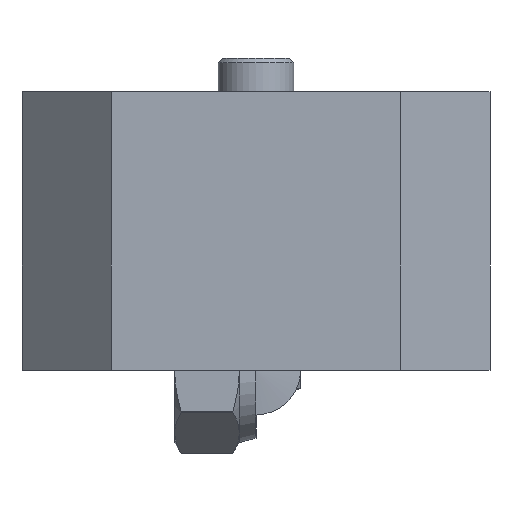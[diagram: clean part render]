
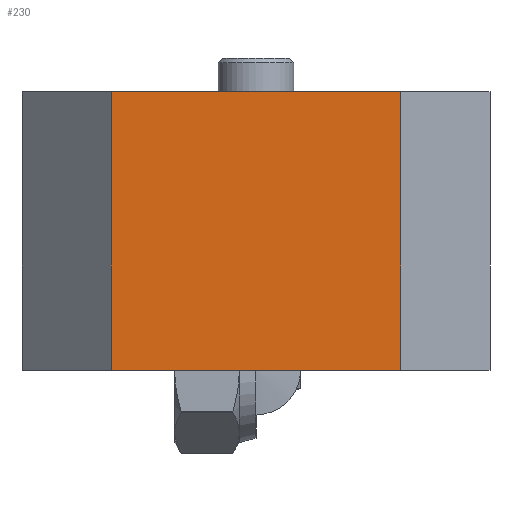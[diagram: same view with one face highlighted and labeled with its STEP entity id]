
A CAD part, left-side view. The second image highlights one B-rep face of the part: STEP entity #230.
In plain terms, the highlighted planar face has unit normal (-1, 0, 0).
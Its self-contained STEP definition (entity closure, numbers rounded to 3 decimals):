
#230 = ADVANCED_FACE( '', ( #307 ), #308, .T. );
#307 = FACE_OUTER_BOUND( '', #460, .T. );
#308 = PLANE( '', #461 );
#460 = EDGE_LOOP( '', ( #658, #659, #660, #661 ) );
#461 = AXIS2_PLACEMENT_3D( '', #662, #663, #664 );
#658 = ORIENTED_EDGE( '', *, *, #1094, .T. );
#659 = ORIENTED_EDGE( '', *, *, #1091, .T. );
#660 = ORIENTED_EDGE( '', *, *, #1069, .F. );
#661 = ORIENTED_EDGE( '', *, *, #1081, .T. );
#662 = CARTESIAN_POINT( '', ( -21., -21., 0. ) );
#663 = DIRECTION( '', ( -1., 0., 0. ) );
#664 = DIRECTION( '', ( 0., 0., 1. ) );
#1069 = EDGE_CURVE( '', #1207, #1208, #1209, .T. );
#1081 = EDGE_CURVE( '', #1207, #1229, #1231, .T. );
#1091 = EDGE_CURVE( '', #1247, #1208, #1248, .T. );
#1094 = EDGE_CURVE( '', #1229, #1247, #1252, .T. );
#1207 = VERTEX_POINT( '', #1435 );
#1208 = VERTEX_POINT( '', #1436 );
#1209 = LINE( '', #1437, #1438 );
#1229 = VERTEX_POINT( '', #1466 );
#1231 = LINE( '', #1469, #1470 );
#1247 = VERTEX_POINT( '', #1495 );
#1248 = LINE( '', #1496, #1497 );
#1252 = LINE( '', #1502, #1503 );
#1435 = CARTESIAN_POINT( '', ( -21., -13., 0. ) );
#1436 = CARTESIAN_POINT( '', ( -21., 13., 0. ) );
#1437 = CARTESIAN_POINT( '', ( -21., -21., 0. ) );
#1438 = VECTOR( '', #1865, 1000. );
#1466 = CARTESIAN_POINT( '', ( -21., -13., 25. ) );
#1469 = CARTESIAN_POINT( '', ( -21., -13., 25. ) );
#1470 = VECTOR( '', #1881, 1000. );
#1495 = CARTESIAN_POINT( '', ( -21., 13., 25. ) );
#1496 = CARTESIAN_POINT( '', ( -21., 13., 0. ) );
#1497 = VECTOR( '', #1891, 1000. );
#1502 = CARTESIAN_POINT( '', ( -21., -21., 25. ) );
#1503 = VECTOR( '', #1896, 1000. );
#1865 = DIRECTION( '', ( 0., 1., 0. ) );
#1881 = DIRECTION( '', ( 0., 0., 1. ) );
#1891 = DIRECTION( '', ( 0., 0., -1. ) );
#1896 = DIRECTION( '', ( 0., 1., 0. ) );
